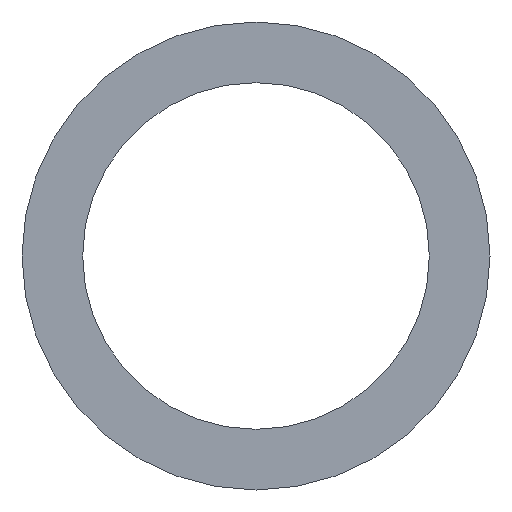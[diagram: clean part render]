
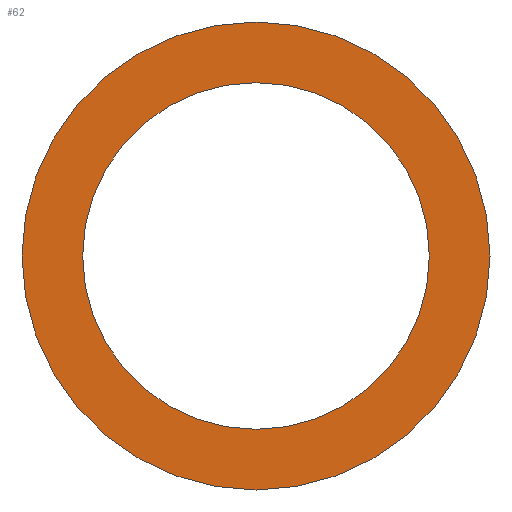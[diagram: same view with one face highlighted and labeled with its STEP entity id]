
A CAD part, front view. The second image highlights one B-rep face of the part: STEP entity #62.
In plain terms, the highlighted planar face has unit normal (0, -1, 0).
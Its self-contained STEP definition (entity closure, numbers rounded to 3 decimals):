
#20=PLANE('',#83);
#26=ORIENTED_EDGE('',*,*,#30,.T.);
#27=ORIENTED_EDGE('',*,*,#32,.F.);
#30=EDGE_CURVE('',#34,#34,#38,.T.);
#32=EDGE_CURVE('',#36,#36,#40,.T.);
#34=VERTEX_POINT('',#106);
#36=VERTEX_POINT('',#111);
#38=CIRCLE('',#78,140.);
#40=CIRCLE('',#81,189.);
#46=EDGE_LOOP('',(#26));
#47=EDGE_LOOP('',(#27));
#54=FACE_BOUND('',#46,.T.);
#55=FACE_BOUND('',#47,.T.);
#62=ADVANCED_FACE('',(#54,#55),#20,.F.);
#78=AXIS2_PLACEMENT_3D('',#105,#89,#90);
#81=AXIS2_PLACEMENT_3D('',#110,#95,#96);
#83=AXIS2_PLACEMENT_3D('',#114,#99,#100);
#89=DIRECTION('',(0.,1.,0.));
#90=DIRECTION('',(1.,0.,0.));
#95=DIRECTION('',(0.,1.,0.));
#96=DIRECTION('',(1.,0.,0.));
#99=DIRECTION('',(0.,1.,0.));
#100=DIRECTION('',(0.,0.,1.));
#105=CARTESIAN_POINT('',(0.,-1.5,0.));
#106=CARTESIAN_POINT('',(140.,-1.5,0.));
#110=CARTESIAN_POINT('',(0.,-1.5,0.));
#111=CARTESIAN_POINT('',(189.,-1.5,0.));
#114=CARTESIAN_POINT('',(0.,-1.5,0.));
